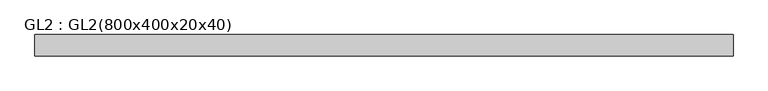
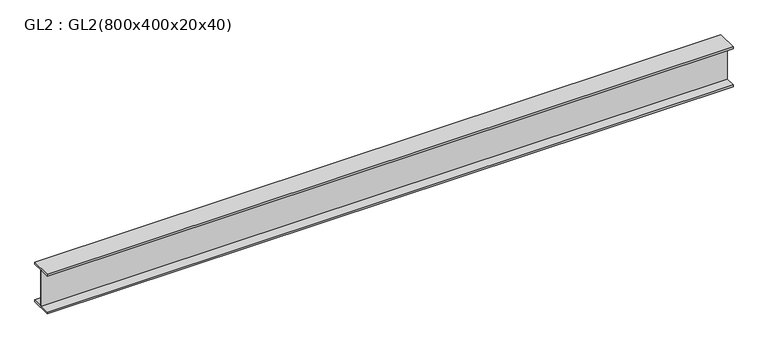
"""IFC4 building model written with IfcOpenShell, lengths in millimetres: beam geometry, GL2 : GL2(800x400x20x40)."""

from ifc_helpers import new_model, si_unit, frame, origin, place, context, project, spatial, polyline, outline, extrude, source, transform, mapped, element, save


def gl2_gl2_800x400x20x40_617c4abd(model_context):
    return source(origin(), model_context, "Body", "SweptSolid", [
        extrude(outline(polyline([(200.0, 400.0), (200.0, 360.0), (10.0, 360.0), (10.0, -360.0), (200.0, -360.0), (200.0, -400.0), (-200.0, -400.0), (-200.0, -360.0), (-10.0, -360.0), (-10.0, 360.0), (-200.0, 360.0), (-200.0, 400.0), (200.0, 400.0)])), frame((-6516.2159603, 0.0, 0.0), z_axis=(1.0, 0.0, 0.0), x_axis=(0.0, 1.0, 0.0)), (0.0, 0.0, 1.0), 13032.4319206),
    ])


if __name__ == "__main__":
    model = new_model("IFC4")
    model_context = context("Model", 3, world=origin())
    ifc_project = project(units=[si_unit("LENGTHUNIT", "METRE", prefix="MILLI")], contexts=[model_context])
    site = spatial("IfcSite", under=ifc_project)
    building = spatial("IfcBuilding", under=site)
    placement = place(None, origin())
    gl2_gl2_800x400x20x40_shape = gl2_gl2_800x400x20x40_617c4abd(model_context)
    element("IfcBeam", 1, ObjectType="GL2 : GL2(800x400x20x40)", at=placement, inside=building, context=model_context, shape_type="MappedRepresentation", body=[
        mapped(gl2_gl2_800x400x20x40_shape, transform((0.0, 0.0, 0.0), x_axis=(1.0, 0.0, 0.0), y_axis=(0.0, 1.0, 0.0), z_axis=(0.0, 0.0, 1.0))),
    ])
    save(model, "model.ifc")
